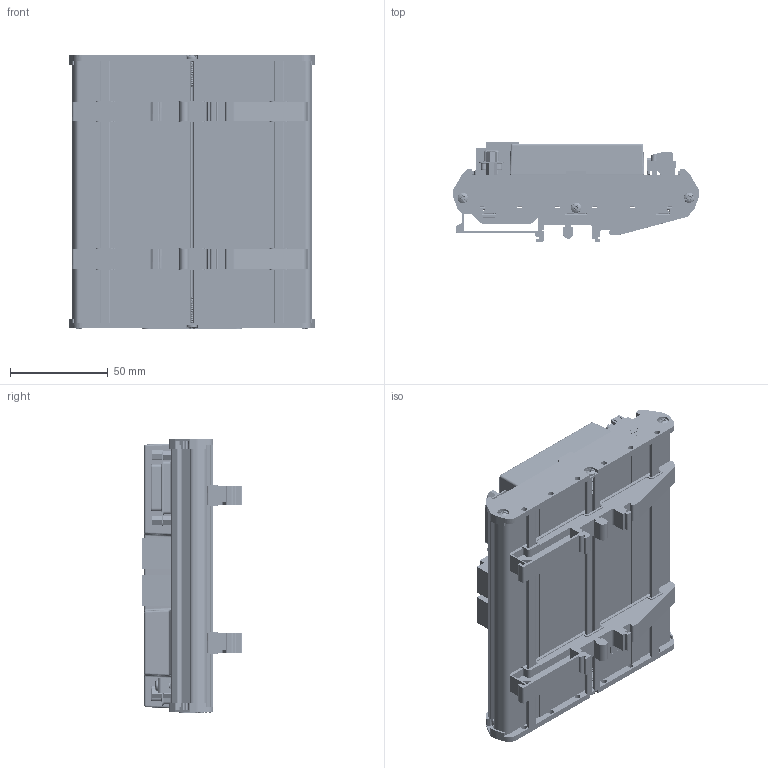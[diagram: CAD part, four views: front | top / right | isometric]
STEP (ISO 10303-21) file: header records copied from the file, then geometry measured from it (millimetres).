
FILE_DESCRIPTION (( 'STEP AP214' ), '1' );
FILE_NAME ('IS008-02_8-4-08.STEP', '2008-08-04T15:52:32', ( ' ' ), ( ' ' ), 'SwSTEP 2.0', 'SolidWorks 2008', '' );
FILE_SCHEMA (( 'AUTOMOTIVE_DESIGN' ));
Length unit declared in the file: millimetre
Products named in the file (1): IS008-02_8-4-08
Bounding box: 125.4 x 51.25 x 140.05 mm (x, y, z)
Volume: 448467.7 mm3; surface area: 126256.2 mm2
Topology: 5 solids, 52 shells, 11562 faces, 30713 edges, 20120 vertices
Faces by surface type: plane 7221, cylinder 2064, bspline 1448, cone 570, torus 224, sphere 35
Entity records: 487291 total; most frequent: CARTESIAN_POINT 199852, ORIENTED_EDGE 61308, DIRECTION 50472, EDGE_CURVE 30654, VECTOR 21110, LINE 21110, VERTEX_POINT 20120, AXIS2_PLACEMENT_3D 14681
